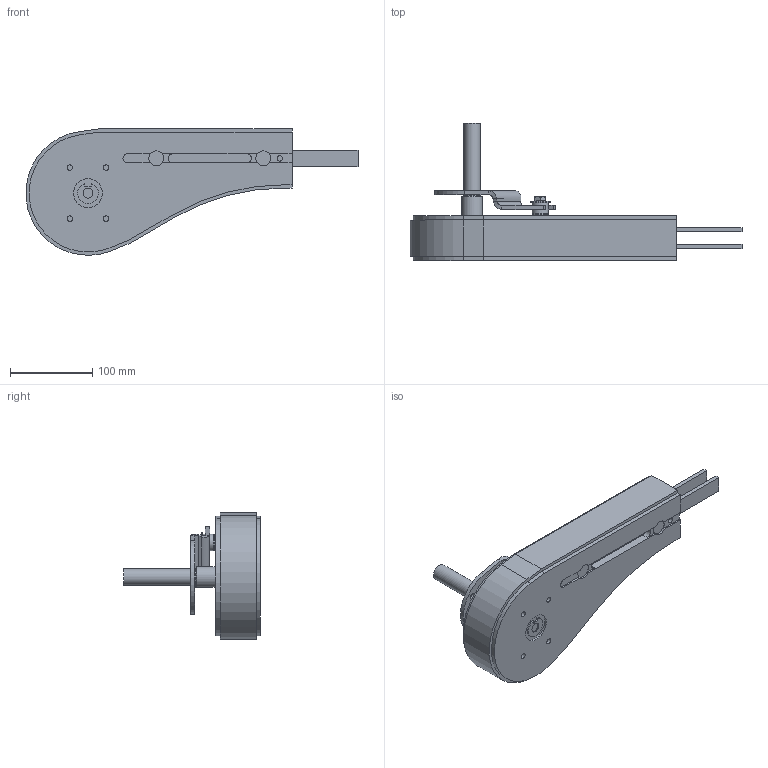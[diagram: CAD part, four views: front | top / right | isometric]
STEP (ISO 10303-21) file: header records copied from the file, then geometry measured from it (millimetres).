
FILE_DESCRIPTION(/* description */ ('Endantriebseinheit FS, medium, ohne Rutschkupplung, rechts, geschlossen, direkt'),/* implementation_level */ '2;1');
FILE_NAME(/* name */ 'T:\vdz0\Step Daten Website\modulflex FS-System\Antriebseinheiten rechts - links\FSEB_MNRGP_MA-71400.stp',/* time_stamp */ '2024-08-20T14:36:44+02:00',/* author */ ('vdz0'),/* organization */ ('modular automation GmbH'),/* preprocessor_version */ 'ST-DEVELOPER v18.1',/* originating_system */ 'Autodesk Inventor 2021',/* authorisation */ '');
FILE_SCHEMA (('CONFIG_CONTROL_DESIGN'));
Length unit declared in the file: millimetre
Products named in the file (1): FSEB_MNRGP_MA-71400
Bounding box: 403.28 x 166.3 x 153.62 mm (x, y, z)
Volume: 1926995.3 mm3; surface area: 225836.9 mm2
Topology: 2 solids, 2 shells, 207 faces, 516 edges, 337 vertices
Faces by surface type: plane 130, cylinder 66, cone 6, bspline 4, torus 1
Full cylindrical faces by diameter (mm): 6.647 x10, 8 x1, 8.1 x1, 11.63 x1, 12 x2, 12.1 x1, 16 x1, 18.3 x4, 20 x3, 25 x1, 35 x2, 50 x1
Entity records: 7113 total; most frequent: CARTESIAN_POINT 1757, DIRECTION 1060, ORIENTED_EDGE 1032, EDGE_CURVE 516, AXIS2_PLACEMENT_3D 360, LINE 340, VECTOR 340, VERTEX_POINT 337
